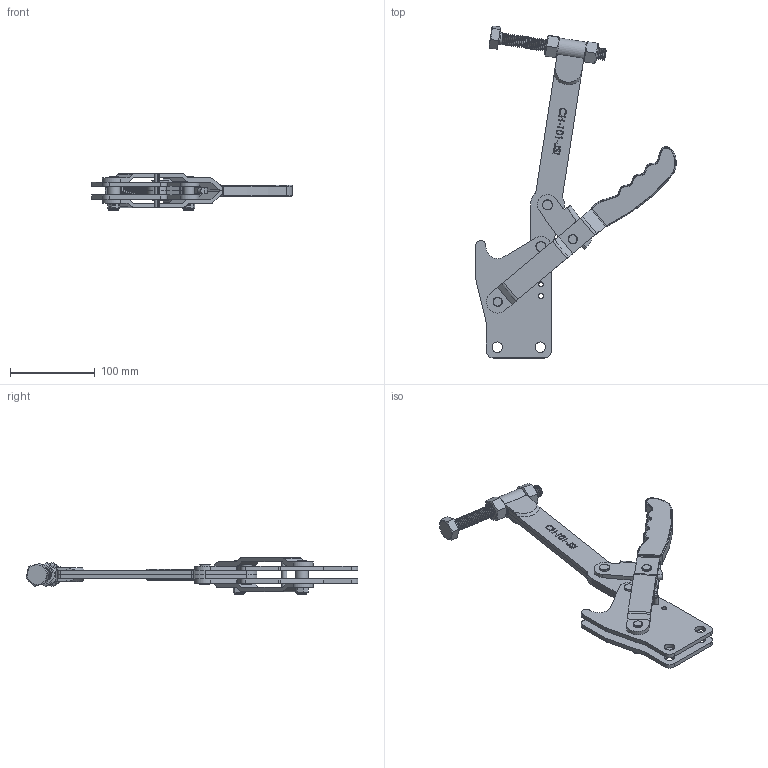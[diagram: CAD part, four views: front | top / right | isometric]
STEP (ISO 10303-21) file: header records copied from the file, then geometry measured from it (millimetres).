
FILE_DESCRIPTION(/* description */ ('STEP AP203'),/* implementation_level */ '2;1');
FILE_NAME(/* name */ 'D:\Vault_2016\Projekty\NASZ KATALOG\CLAMPTEK\STRONA\Vertical toggle clamp\CH-101-JSI\CH-101-JSI_OTWARTY.stp',/* time_stamp */ '2019-01-18T14:24:08+01:00',/* author */ ('CADENGINEERING4'),/* organization */ ('Î¢ÈíÖÐ¹ú'),/* preprocessor_version */ 'ST-DEVELOPER v17.2',/* originating_system */ 'Autodesk Inventor 2019',/* authorisation */ '');
FILE_SCHEMA (('AUTOMOTIVE_DESIGN { 1 0 10303 214 3 1 1 }'));
Products named in the file (14): CH-101-JSI_OTWARTY; CH-10247-09; CH-101-JSB-01 STRAIGHT BASE; CH-101-JSI-02 SOLID BAR_Ä¬ÈÏ_°´
¼Ó¹¤_; CH-101-J-03 HANDLE; CH-101-J-11; CH-101-J-06; CH-101-J-07; CH-10247-05; CH-101-J-04 CONNECTING-PLATE; 3-8-16 LOCK NUT; CH-SA-58500 SPINDLE SUPPLIED; CH-10247-08; CH-SA-58500 NUT
Assembly tree (18 placements, depth 2):
  CH-101-JSI_OTWARTY
    CH-10247-09
    CH-101-JSB-01 STRAIGHT BASE
    CH-101-JSI-02 SOLID BAR_Ä¬ÈÏ_°´
¼Ó¹¤_
    CH-101-J-11  x2
    CH-101-J-03 HANDLE
    CH-10247-08  x2
    3-8-16 LOCK NUT  x2
    CH-101-J-06  x2
    CH-101-J-07
    CH-10247-05
    CH-101-J-04 CONNECTING-PLATE
    CH-SA-58500 NUT  x2
    CH-SA-58500 SPINDLE SUPPLIED
Bounding box: 236.09 x 391.03 x 43 mm (x, y, z)
Volume: 332122.2 mm3; surface area: 162817 mm2
Topology: 23 solids, 23 shells, 837 faces, 2322 edges, 1565 vertices
Faces by surface type: plane 334, cylinder 244, bspline 184, cone 46, torus 27, sphere 2
Full cylindrical faces by diameter (mm): 2.48 x1, 2.79 x1, 6 x4, 8.5 x8, 9.5 x24, 11 x2, 12 x4, 12.3 x8, 12.7 x8, 12.8 x1, 13.7 x65, 15 x1
Entity records: 63578 total; most frequent: CARTESIAN_POINT 44525, ORIENTED_EDGE 4218, DIRECTION 3264, EDGE_CURVE 2109, VERTEX_POINT 1418, LINE 1088, VECTOR 1088, AXIS2_PLACEMENT_3D 1088
